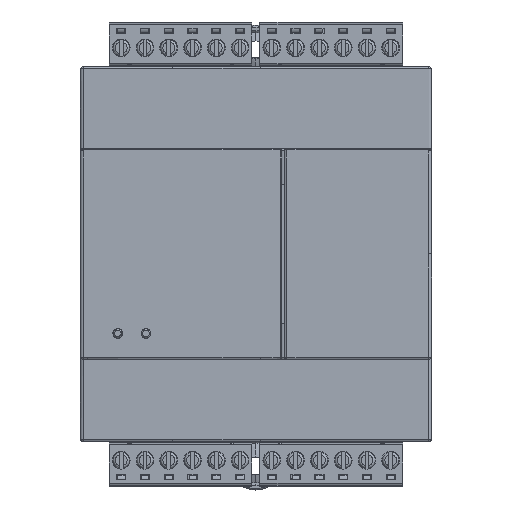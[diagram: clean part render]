
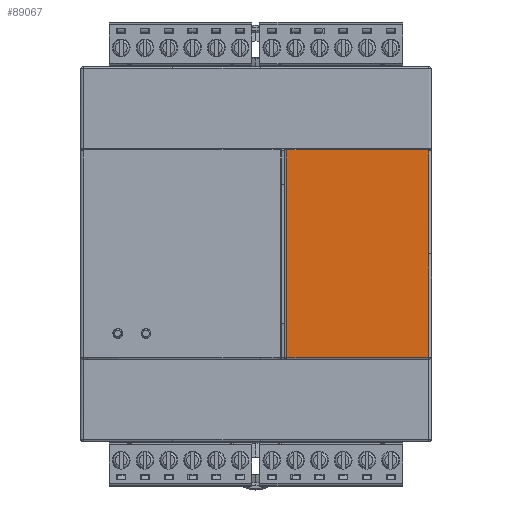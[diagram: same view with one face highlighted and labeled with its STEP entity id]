
A CAD part, top view. The second image highlights one B-rep face of the part: STEP entity #89067.
In plain terms, the highlighted planar face has unit normal (0, 0, 1).
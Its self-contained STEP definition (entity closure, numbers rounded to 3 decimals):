
#545 = CARTESIAN_POINT ( 'NONE',  ( 33.423, -24.392, 34.554 ) ) ;
#1331 = PLANE ( 'NONE',  #58310 ) ;
#1950 = ORIENTED_EDGE ( 'NONE', *, *, #48627, .F. ) ;
#4221 = EDGE_CURVE ( 'NONE', #14885, #70015, #76173, .T. ) ;
#12636 = CARTESIAN_POINT ( 'NONE',  ( 63.723, -2.192, 34.554 ) ) ;
#12747 = B_SPLINE_CURVE_WITH_KNOTS ( 'NONE', 1,
 ( #21205, #96704 ),
 .UNSPECIFIED., .F., .F.,
 ( 2, 2 ),
 ( 0., 22.2 ),
 .UNSPECIFIED. ) ;
#12932 = CARTESIAN_POINT ( 'NONE',  ( 33.423, 20.008, 34.554 ) ) ;
#14885 = VERTEX_POINT ( 'NONE', #82001 ) ;
#14941 = VERTEX_POINT ( 'NONE', #98268 ) ;
#15858 = CARTESIAN_POINT ( 'NONE',  ( 33.423, -24.392, 34.554 ) ) ;
#19170 = CARTESIAN_POINT ( 'NONE',  ( 63.723, 20.008, 34.554 ) ) ;
#19574 = CARTESIAN_POINT ( 'NONE',  ( 63.723, -24.392, 34.554 ) ) ;
#21205 = CARTESIAN_POINT ( 'NONE',  ( 63.723, -2.192, 34.554 ) ) ;
#28056 = ORIENTED_EDGE ( 'NONE', *, *, #75080, .F. ) ;
#28302 = VERTEX_POINT ( 'NONE', #59012 ) ;
#29464 = CARTESIAN_POINT ( 'NONE',  ( 33.223, -24.392, 34.554 ) ) ;
#30052 = CARTESIAN_POINT ( 'NONE',  ( 63.723, -24.392, 34.554 ) ) ;
#30287 = EDGE_CURVE ( 'NONE', #91852, #96468, #98017, .T. ) ;
#32584 = EDGE_CURVE ( 'NONE', #14941, #28302, #79585, .T. ) ;
#35390 = CARTESIAN_POINT ( 'NONE',  ( 33.223, -24.392, 34.554 ) ) ;
#39757 = FACE_OUTER_BOUND ( 'NONE', #66461, .T. ) ;
#42095 = EDGE_CURVE ( 'NONE', #28302, #91852, #12747, .T. ) ;
#43467 = CARTESIAN_POINT ( 'NONE',  ( 33.423, -24.392, 34.554 ) ) ;
#45618 = DIRECTION ( 'NONE',  ( 0., -1., 0. ) ) ;
#46266 = DIRECTION ( 'NONE',  ( 1., 0., 0. ) ) ;
#47187 = VECTOR ( 'NONE', #45618, 1000. ) ;
#48627 = EDGE_CURVE ( 'NONE', #96468, #70015, #95149, .T. ) ;
#49273 = CARTESIAN_POINT ( 'NONE',  ( 33.423, 20.008, 34.554 ) ) ;
#55732 = CARTESIAN_POINT ( 'NONE',  ( 33.223, 20.008, 34.554 ) ) ;
#56318 = B_SPLINE_CURVE_WITH_KNOTS ( 'NONE', 1,
 ( #12932, #88553 ),
 .UNSPECIFIED., .F., .F.,
 ( 2, 2 ),
 ( 0., 30.3 ),
 .UNSPECIFIED. ) ;
#58310 = AXIS2_PLACEMENT_3D ( 'NONE', #64039, #72006, #46266 ) ;
#59012 = CARTESIAN_POINT ( 'NONE',  ( 63.723, -2.192, 34.554 ) ) ;
#64039 = CARTESIAN_POINT ( 'NONE',  ( 28.843, -28.832, 34.554 ) ) ;
#66461 = EDGE_LOOP ( 'NONE', ( #28056, #93146, #1950, #66557, #96243, #79076, #74135 ) ) ;
#66557 = ORIENTED_EDGE ( 'NONE', *, *, #30287, .F. ) ;
#70015 = VERTEX_POINT ( 'NONE', #29464 ) ;
#70397 = CARTESIAN_POINT ( 'NONE',  ( 33.423, 20.008, 34.554 ) ) ;
#72006 = DIRECTION ( 'NONE',  ( 0., 0., 1. ) ) ;
#74135 = ORIENTED_EDGE ( 'NONE', *, *, #78500, .F. ) ;
#75080 = EDGE_CURVE ( 'NONE', #14885, #75152, #76131, .T. ) ;
#75152 = VERTEX_POINT ( 'NONE', #70397 ) ;
#76131 = B_SPLINE_CURVE_WITH_KNOTS ( 'NONE', 1,
 ( #55732, #49273 ),
 .UNSPECIFIED., .F., .F.,
 ( 2, 2 ),
 ( 0.3, 0.5 ),
 .UNSPECIFIED. ) ;
#76173 = LINE ( 'NONE', #89038, #47187 ) ;
#78500 = EDGE_CURVE ( 'NONE', #75152, #14941, #56318, .T. ) ;
#79076 = ORIENTED_EDGE ( 'NONE', *, *, #32584, .F. ) ;
#79585 = B_SPLINE_CURVE_WITH_KNOTS ( 'NONE', 1,
 ( #19170, #12636 ),
 .UNSPECIFIED., .F., .F.,
 ( 2, 2 ),
 ( 0., 22.2 ),
 .UNSPECIFIED. ) ;
#82001 = CARTESIAN_POINT ( 'NONE',  ( 33.223, 20.008, 34.554 ) ) ;
#88553 = CARTESIAN_POINT ( 'NONE',  ( 63.723, 20.008, 34.554 ) ) ;
#89038 = CARTESIAN_POINT ( 'NONE',  ( 33.223, -28.832, 34.554 ) ) ;
#89067 = ADVANCED_FACE ( 'NONE', ( #39757 ), #1331, .T. ) ;
#91852 = VERTEX_POINT ( 'NONE', #19574 ) ;
#93146 = ORIENTED_EDGE ( 'NONE', *, *, #4221, .T. ) ;
#95149 = B_SPLINE_CURVE_WITH_KNOTS ( 'NONE', 1,
 ( #43467, #35390 ),
 .UNSPECIFIED., .F., .F.,
 ( 2, 2 ),
 ( 0., 0.2 ),
 .UNSPECIFIED. ) ;
#96243 = ORIENTED_EDGE ( 'NONE', *, *, #42095, .F. ) ;
#96468 = VERTEX_POINT ( 'NONE', #15858 ) ;
#96704 = CARTESIAN_POINT ( 'NONE',  ( 63.723, -24.392, 34.554 ) ) ;
#98017 = B_SPLINE_CURVE_WITH_KNOTS ( 'NONE', 1,
 ( #30052, #545 ),
 .UNSPECIFIED., .F., .F.,
 ( 2, 2 ),
 ( 10., 40.3 ),
 .UNSPECIFIED. ) ;
#98268 = CARTESIAN_POINT ( 'NONE',  ( 63.723, 20.008, 34.554 ) ) ;
